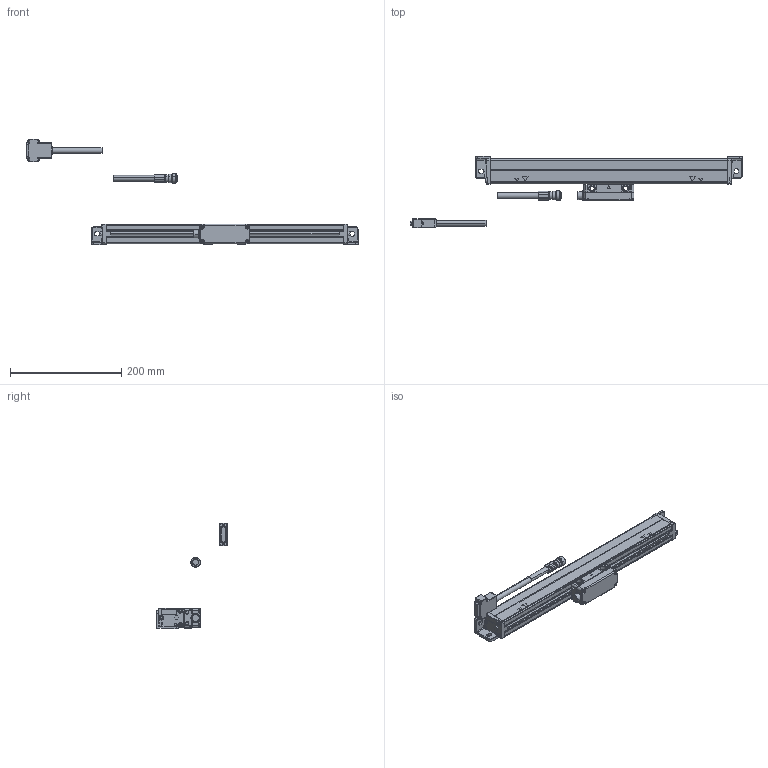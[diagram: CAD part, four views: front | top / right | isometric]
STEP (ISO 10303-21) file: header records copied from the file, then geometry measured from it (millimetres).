
FILE_DESCRIPTION(('Creo Elements/Direct Modeling STEP Export'),'2;1');
FILE_NAME('AT103_AT203-300.stp','2018-01-05T12:47:42',(''),(''),'Creo Elements/Direct Modeling STEP processor for AP214 (Solid Model)','Creo Elements/Direct Modeling 18.1B 29-Sep-2012 (C) Parametric Technology GmbH','');
FILE_SCHEMA(('AUTOMOTIVE_DESIGN { 1 0 10303 214 1 1 1 1 }'));
Length unit declared in the file: millimetre
Products named in the file (5): Scale_300; Cable.1; DetectorHead; Cable; AT103_203-300
Assembly tree (4 placements, depth 2):
  AT103_203-300
    Cable
    DetectorHead
    Cable.1
    Scale_300
Bounding box: 595.83 x 129 x 190.1 mm (x, y, z)
Volume: 806977.2 mm3; surface area: 127114.7 mm2
Topology: 4 solids, 8 shells, 1072 faces, 2655 edges, 1645 vertices
Faces by surface type: plane 603, cylinder 290, cone 80, torus 58, sphere 16, extrusion 16, bspline 5, revolution 4
Entity records: 33826 total; most frequent: CARTESIAN_POINT 6553, ORIENTED_EDGE 5276, DIRECTION 5000, EDGE_CURVE 2638, AXIS2_PLACEMENT_3D 1684, VERTEX_POINT 1645, VECTOR 1626, LINE 1620
